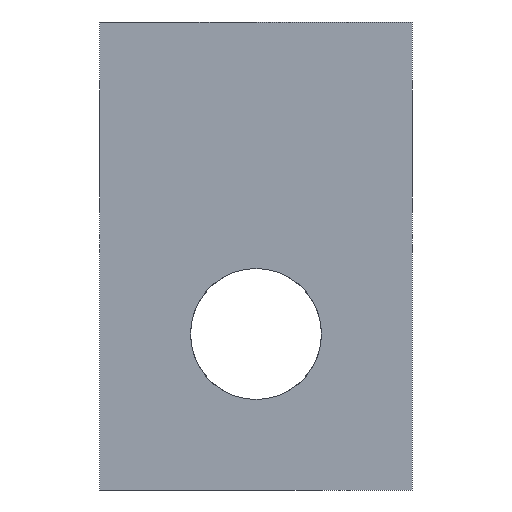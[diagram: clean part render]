
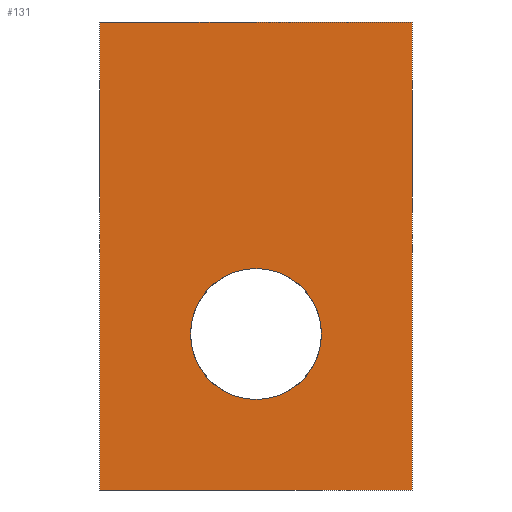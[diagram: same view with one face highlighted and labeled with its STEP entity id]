
A CAD part, left-side view. The second image highlights one B-rep face of the part: STEP entity #131.
In plain terms, the highlighted planar face has unit normal (-1, 0, 0).
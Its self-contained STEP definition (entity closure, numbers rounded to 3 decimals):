
#10 = EDGE_CURVE ( 'NONE', #371, #986, #1138, .T. ) ;
#39 = CARTESIAN_POINT ( 'NONE',  ( -23., -5., 7.5 ) ) ;
#44 = CARTESIAN_POINT ( 'NONE',  ( -23., 5., -7.5 ) ) ;
#106 = EDGE_CURVE ( 'NONE', #315, #1146, #826, .T. ) ;
#118 = AXIS2_PLACEMENT_3D ( 'NONE', #1278, #1019, #378 ) ;
#131 = ADVANCED_FACE ( 'NONE', ( #578, #819 ), #232, .F. ) ;
#144 = CARTESIAN_POINT ( 'NONE',  ( -23., 5., 7.5 ) ) ;
#197 = LINE ( 'NONE', #856, #200 ) ;
#200 = VECTOR ( 'NONE', #865, 1000. ) ;
#202 = CIRCLE ( 'NONE', #945, 2.1 ) ;
#217 = EDGE_LOOP ( 'NONE', ( #1107, #1311 ) ) ;
#226 = CARTESIAN_POINT ( 'NONE',  ( -23., 5., -7.5 ) ) ;
#232 = PLANE ( 'NONE',  #386 ) ;
#236 = DIRECTION ( 'NONE',  ( 0., -1., 0. ) ) ;
#241 = CARTESIAN_POINT ( 'NONE',  ( -23., 0., -4.6 ) ) ;
#315 = VERTEX_POINT ( 'NONE', #241 ) ;
#334 = EDGE_CURVE ( 'NONE', #759, #1413, #698, .T. ) ;
#336 = DIRECTION ( 'NONE',  ( 0., -1., 0. ) ) ;
#344 = VECTOR ( 'NONE', #336, 1000. ) ;
#357 = EDGE_CURVE ( 'NONE', #371, #759, #513, .T. ) ;
#362 = CARTESIAN_POINT ( 'NONE',  ( -23., 0., -0.4 ) ) ;
#371 = VERTEX_POINT ( 'NONE', #1356 ) ;
#378 = DIRECTION ( 'NONE',  ( 0., 0., 1. ) ) ;
#386 = AXIS2_PLACEMENT_3D ( 'NONE', #44, #1034, #387 ) ;
#387 = DIRECTION ( 'NONE',  ( 0., 0., -1. ) ) ;
#510 = VECTOR ( 'NONE', #1371, 1000. ) ;
#513 = LINE ( 'NONE', #1388, #510 ) ;
#519 = EDGE_CURVE ( 'NONE', #1146, #315, #202, .T. ) ;
#538 = CARTESIAN_POINT ( 'NONE',  ( -23., -5., -7.5 ) ) ;
#578 = FACE_BOUND ( 'NONE', #217, .T. ) ;
#681 = EDGE_CURVE ( 'NONE', #986, #1413, #197, .T. ) ;
#698 = LINE ( 'NONE', #144, #344 ) ;
#712 = CARTESIAN_POINT ( 'NONE',  ( -23., 5., 7.5 ) ) ;
#721 = EDGE_LOOP ( 'NONE', ( #1113, #1289, #1250, #1184 ) ) ;
#759 = VERTEX_POINT ( 'NONE', #712 ) ;
#819 = FACE_OUTER_BOUND ( 'NONE', #721, .T. ) ;
#826 = CIRCLE ( 'NONE', #118, 2.1 ) ;
#856 = CARTESIAN_POINT ( 'NONE',  ( -23., -5., -7.5 ) ) ;
#865 = DIRECTION ( 'NONE',  ( 0., 0., 1. ) ) ;
#914 = VECTOR ( 'NONE', #236, 1000. ) ;
#945 = AXIS2_PLACEMENT_3D ( 'NONE', #1164, #1160, #1156 ) ;
#986 = VERTEX_POINT ( 'NONE', #538 ) ;
#1019 = DIRECTION ( 'NONE',  ( -1., 0., 0. ) ) ;
#1034 = DIRECTION ( 'NONE',  ( 1., 0., 0. ) ) ;
#1107 = ORIENTED_EDGE ( 'NONE', *, *, #519, .F. ) ;
#1113 = ORIENTED_EDGE ( 'NONE', *, *, #681, .T. ) ;
#1138 = LINE ( 'NONE', #226, #914 ) ;
#1146 = VERTEX_POINT ( 'NONE', #362 ) ;
#1156 = DIRECTION ( 'NONE',  ( 0., 0., 1. ) ) ;
#1160 = DIRECTION ( 'NONE',  ( -1., 0., 0. ) ) ;
#1164 = CARTESIAN_POINT ( 'NONE',  ( -23., 0., -2.5 ) ) ;
#1184 = ORIENTED_EDGE ( 'NONE', *, *, #10, .T. ) ;
#1250 = ORIENTED_EDGE ( 'NONE', *, *, #357, .F. ) ;
#1278 = CARTESIAN_POINT ( 'NONE',  ( -23., 0., -2.5 ) ) ;
#1289 = ORIENTED_EDGE ( 'NONE', *, *, #334, .F. ) ;
#1311 = ORIENTED_EDGE ( 'NONE', *, *, #106, .F. ) ;
#1356 = CARTESIAN_POINT ( 'NONE',  ( -23., 5., -7.5 ) ) ;
#1371 = DIRECTION ( 'NONE',  ( 0., 0., 1. ) ) ;
#1388 = CARTESIAN_POINT ( 'NONE',  ( -23., 5., -7.5 ) ) ;
#1413 = VERTEX_POINT ( 'NONE', #39 ) ;
